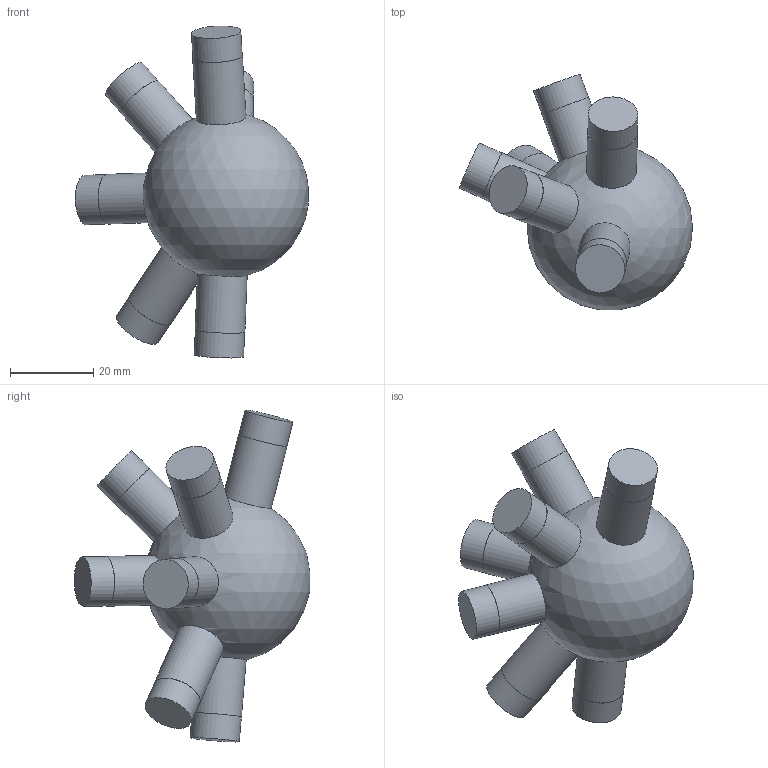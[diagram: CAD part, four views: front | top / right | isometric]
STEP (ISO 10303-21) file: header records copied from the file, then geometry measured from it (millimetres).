
FILE_DESCRIPTION(('Open CASCADE Model'),'2;1');
FILE_NAME('Open CASCADE Shape Model','2026-10-21T12:47:57',('Author'),( 'Open CASCADE'),'Open CASCADE STEP processor 7.9','Open CASCADE 7.9' ,'Unknown');
FILE_SCHEMA(('AUTOMOTIVE_DESIGN { 1 0 10303 214 1 1 1 1 }'));
Length unit declared in the file: millimetre
Products named in the file (1): Open CASCADE STEP translator 7.9 161
Bounding box: 56.19 x 56.76 x 79.98 mm (x, y, z)
Volume: 48636.3 mm3; surface area: 10183.9 mm2
Topology: 1 solids, 1 shells, 29 faces, 49 edges, 33 vertices
Faces by surface type: cylinder 14, plane 14, sphere 1
Full cylindrical faces by diameter (mm): 11.9 x7, 12 x7
Entity records: 1968 total; most frequent: CARTESIAN_POINT 855, DIRECTION 227, ORIENTED_EDGE 98, PCURVE 98, DEFINITIONAL_REPRESENTATION 98, LINE 76, VECTOR 76, AXIS2_PLACEMENT_3D 65
